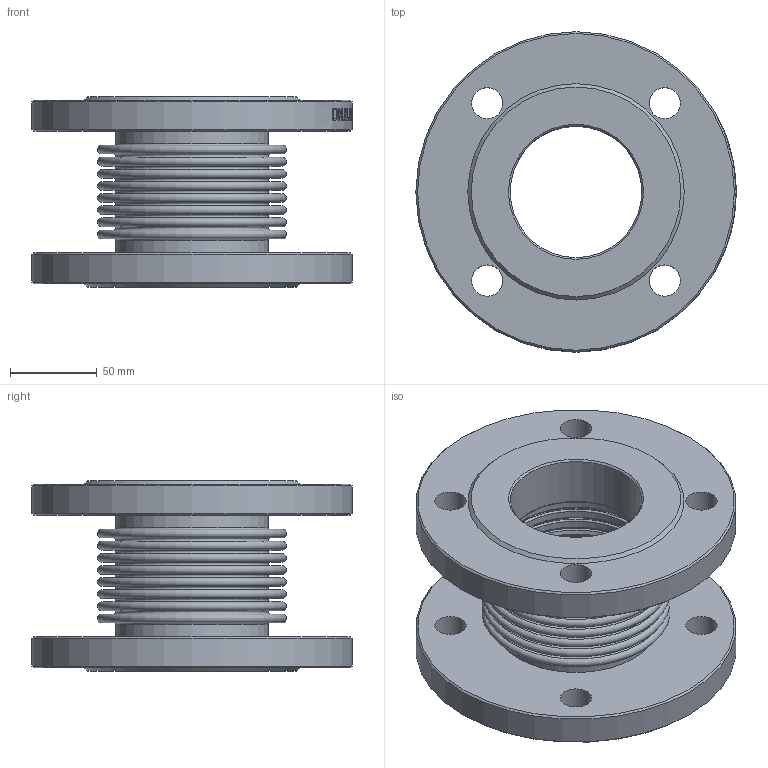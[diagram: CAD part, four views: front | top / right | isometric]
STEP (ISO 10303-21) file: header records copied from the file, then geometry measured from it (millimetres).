
FILE_DESCRIPTION(/* description */ ('D140-02114','CAx-IF Rec.Pracs.---Representation and Presentation of Product Manufacturing Information (PMI)---4.0---2014-10-13'),/* implementation_level */ '2;1');
FILE_NAME(/* name */ '',/* time_stamp */ '2026-04-13T23:26:57+03:00',/* author */ ('DN.RU'),/* organization */ ('DN.RU'),/* preprocessor_version */ 'ST-DEVELOPER v20',/* originating_system */ 'Autodesk Inventor 2025',/* authorisation */ '');
FILE_SCHEMA (('AP242_MANAGED_MODEL_BASED_3D_ENGINEERING_MIM_LF { 1 0 10303 442 1 1 4 }'));
Length unit declared in the file: millimetre
Products named in the file (1): CB-3234-F
Bounding box: 185 x 185 x 110 mm (x, y, z)
Volume: 933837 mm3; surface area: 264628.7 mm2
Topology: 1 solids, 1 shells, 315 faces, 765 edges, 509 vertices
Faces by surface type: plane 132, bspline 91, cylinder 41, torus 41, cone 10
Full cylindrical faces by diameter (mm): 18 x8, 76 x2, 84 x6, 88 x2, 94 x2, 185 x2
Entity records: 12598 total; most frequent: CARTESIAN_POINT 4767, ORIENTED_EDGE 1530, DIRECTION 1397, EDGE_CURVE 765, AXIS2_PLACEMENT_3D 552, VERTEX_POINT 509, EDGE_LOOP 390, STYLED_ITEM 390
